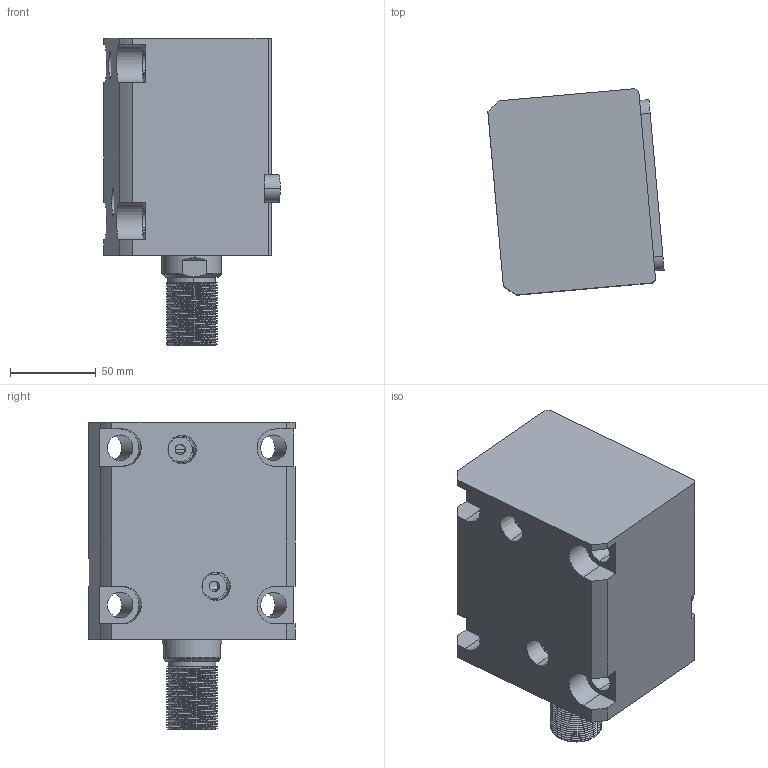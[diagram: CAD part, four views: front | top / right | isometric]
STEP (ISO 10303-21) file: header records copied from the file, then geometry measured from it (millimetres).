
FILE_DESCRIPTION (( 'STEP AP214' ), '1' );
FILE_NAME ('chtb-la63x60w_asm.STEP', '2018-05-17T03:08:44', ( 'Windows' ), ( 'Microsoft' ), 'SwSTEP 2.0', 'SolidWorks 2015', '' );
FILE_SCHEMA (( 'AUTOMOTIVE_DESIGN' ));
Length unit declared in the file: millimetre
Products named in the file (5): CHTB-LA63X60NBT; CHTB-LA63PJ; CHTB63X60WHSG; CHTB-63QG; chtb-la63x60w_asm
Assembly tree (4 placements, depth 2):
  chtb-la63x60w_asm
    CHTB-63QG
    CHTB63X60WHSG
    CHTB-LA63PJ
    CHTB-LA63X60NBT
Bounding box: 103.11 x 120.61 x 180 mm (x, y, z)
Volume: 1117785.4 mm3; surface area: 164212.2 mm2
Topology: 4 solids, 4 shells, 228 faces, 670 edges, 457 vertices
Faces by surface type: cylinder 147, plane 48, bspline 14, cone 13, torus 6
Entity records: 22769 total; most frequent: CARTESIAN_POINT 17126, ORIENTED_EDGE 1332, DIRECTION 940, EDGE_CURVE 666, VERTEX_POINT 457, AXIS2_PLACEMENT_3D 350, EDGE_LOOP 253, LINE 240
